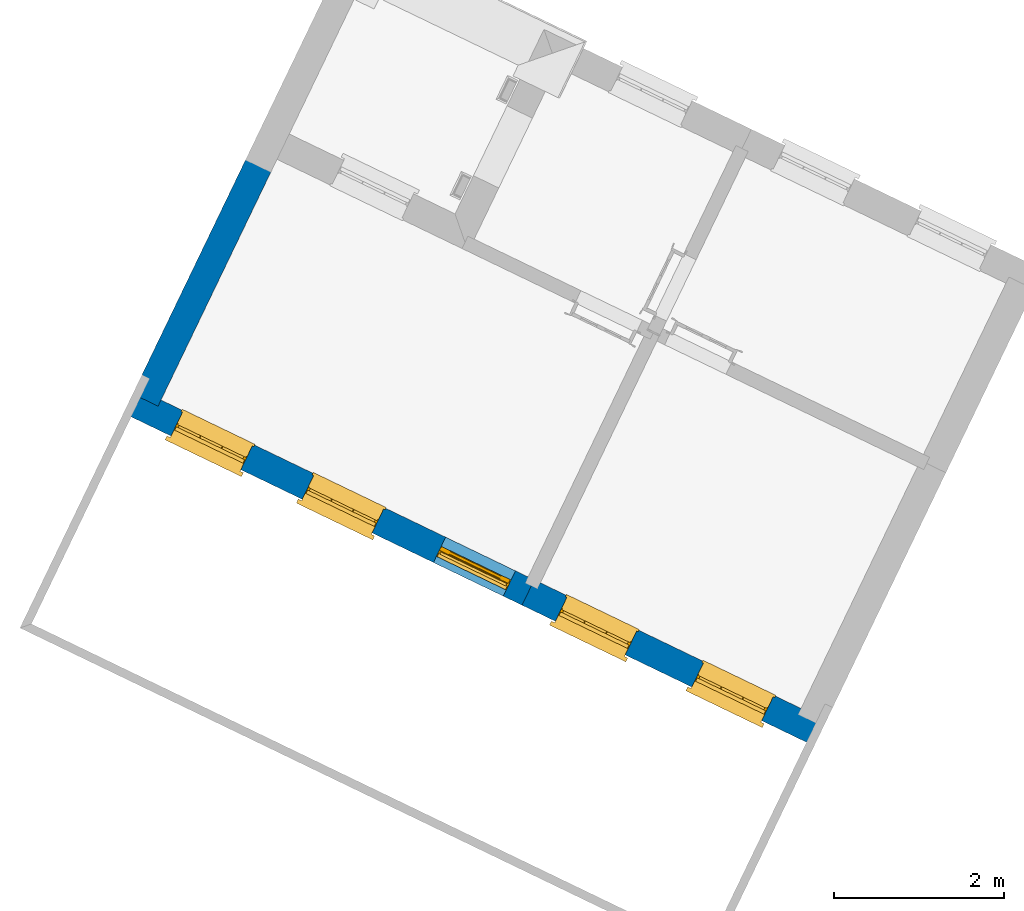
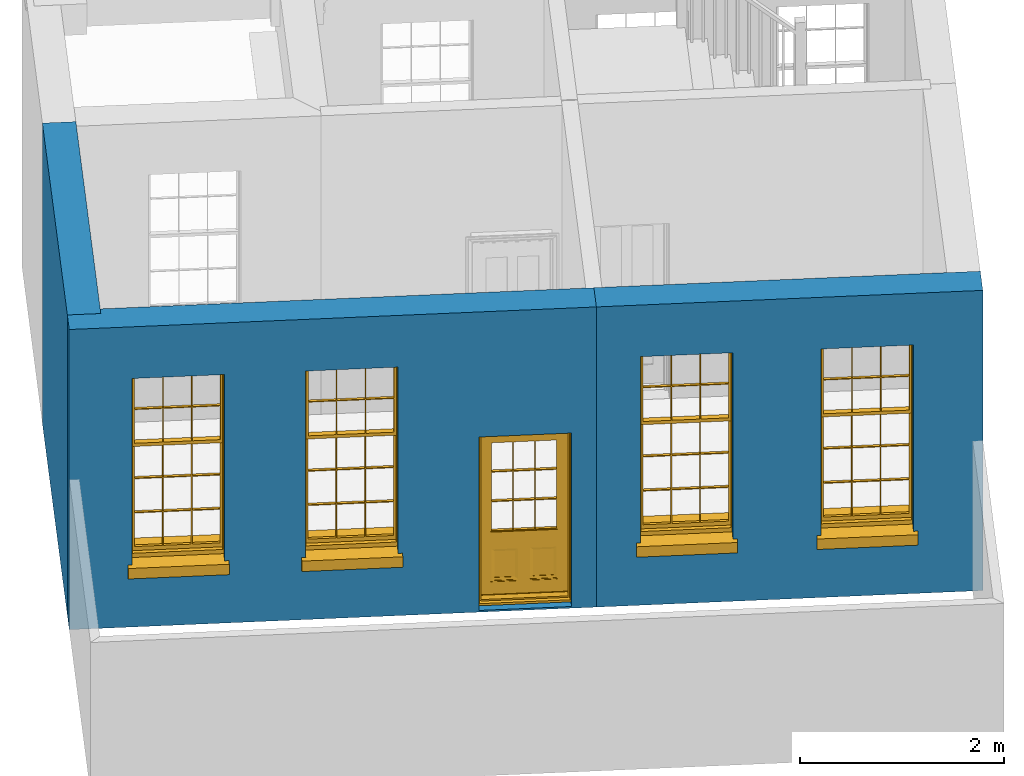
# One storey, part 2 of 6: 4 windows, 3 walls, 1 door, 5 openings.
"""IFC4 building model written with IfcOpenShell, lengths in metres."""

from ifc_helpers import new_model, si_unit, frame, origin, origin_with_axes, place, context, subcontext, project, spatial, polyline, outline, extrude, faceted_brep, source, transform, mapped, material, layer, layer_set, layer_usage, type_object, type_shapes, element, fill, save


model = new_model("IFC4")

# Units and contexts
model_context = context("Model", 3, world=origin_with_axes())
body_context = subcontext(model_context, "Body", "Model", "MODEL_VIEW")
ifc_project = project(units=[si_unit("PLANEANGLEUNIT", "RADIAN"), si_unit("MASSUNIT", "GRAM", prefix="KILO"), si_unit("FORCEUNIT", "NEWTON", prefix="KILO"), si_unit("LENGTHUNIT", "METRE"), si_unit("AREAUNIT", "SQUARE_METRE"), si_unit("VOLUMEUNIT", "CUBIC_METRE")], contexts=[model_context, model_context])

# Sites, building, storey
site_1_placement = place(None, origin_with_axes())
site_1 = spatial("IfcSite", under=ifc_project, at=site_1_placement, Name="Tamar")
site_2_placement = place(site_1_placement, origin_with_axes())
site_2 = spatial("IfcSite", under=site_1, at=site_2_placement, Name="Site plot-1", CompositionType="ELEMENT")
building_placement = place(None, origin_with_axes())
building = spatial("IfcBuilding", under=site_2, at=building_placement, Name="Building plot-1", CompositionType="ELEMENT")
storey_placement = place(None, frame((0.0, 0.0, 26.0), z_axis=(0.0, 0.0, 1.0), x_axis=(1.0, 0.0, 0.0)))
storey = spatial("IfcBuildingStorey", under=building, at=storey_placement, Name="plot-1 0", CompositionType="ELEMENT", Elevation=26.0)

# Wall, openings, windows, door
ifc_material_1 = material(Name="Masonry")
ifc_layer_1 = layer(ifc_material_1, 0.33, ventilated=False)
ifc_layer_set_1 = layer_set([ifc_layer_1], Name="exterior_0.08_0.25")
ifc_layer_usage_1 = layer_usage(ifc_layer_set_1, "AXIS2", "POSITIVE", -0.25)
wall_type_1 = type_object("IfcWallType", Name="exterior_0.08_0.25", PredefinedType="SOLIDWALL", material=ifc_layer_set_1)
wall_1_placement = place(storey_placement, frame((219.373861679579, 294.726949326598, 0.0), z_axis=(0.0, 0.0, 1.0), x_axis=(0.900856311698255, -0.434117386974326, 0.0)))
wall_1 = element("IfcWall", 1, at=wall_1_placement, inside=storey, type_object=wall_type_1, material=ifc_layer_usage_1, Name="exterior", context=body_context, shape_type="SweptSolid", body=[
    extrude(outline(polyline([(-0.250000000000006, 0.0800000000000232), (-0.249999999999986, -0.250000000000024), (4.94327122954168, -0.250000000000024), (4.94327122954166, 0.0800000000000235), (-0.250000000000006, 0.0800000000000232)])), origin_with_axes(), (0.0, 0.0, 1.0), 3.6),
])
opening_1_placement = place(wall_1_placement, frame((0.368878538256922, 0.0, 0.75)))
opening_1 = element("IfcOpeningElement", 2, at=opening_1_placement, cuts=wall_1, Name="My Opening", ObjectType="Opening", context=body_context, shape_type="SweptSolid", body=[
    extrude(outline(polyline([(0.0, -0.269999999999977), (0.910000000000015, -0.269999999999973), (0.91000000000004, 1.10000000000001), (2.43693953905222e-14, 1.1), (0.0, -0.269999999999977)])), origin_with_axes(), (0.0, 0.0, 1.0), 2.23),
])
opening_2_placement = place(wall_1_placement, frame((2.07887853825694, 0.0, 0.75)))
opening_2 = element("IfcOpeningElement", 3, at=opening_2_placement, cuts=wall_1, Name="My Opening", ObjectType="Opening", context=body_context, shape_type="SweptSolid", body=[
    extrude(outline(polyline([(0.0, -0.270000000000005), (0.90999999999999, -0.270000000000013), (0.910000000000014, 1.09999999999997), (2.39808173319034e-14, 1.09999999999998), (0.0, -0.270000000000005)])), origin_with_axes(), (0.0, 0.0, 1.0), 2.23),
])
opening_3_placement = place(wall_1_placement, frame((3.78887853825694, 0.0, 0.0199999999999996)))
opening_3 = element("IfcOpeningElement", 4, at=opening_3_placement, cuts=wall_1, Name="My Opening", ObjectType="Opening", context=body_context, shape_type="SweptSolid", body=[
    extrude(outline(polyline([(0.0, -0.269999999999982), (0.90999999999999, -0.269999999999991), (0.910000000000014, 1.09999999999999), (2.48689957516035e-14, 1.1), (0.0, -0.269999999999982)])), origin_with_axes(), (0.0, 0.0, 1.0), 2.08),
])
window_type = type_object("IfcWindowType", Name="sash_big_taller", PartitioningType="DOUBLE_PANEL_HORIZONTAL", PredefinedType="NOTDEFINED")
shared_shape_1 = source(origin(), body_context, "Body", "Brep", [
    faceted_brep([(0.033125, 0.145, 1.385209), (0.01, 0.145, 1.385209), (0.033125, 0.145, 1.786042), (0.876875, 0.145, 1.385209), (0.876875, 0.145, 1.786042), (0.9, 0.145, 1.385209), (0.876875, 0.145, 1.796042), (0.876875, 0.145, 2.196875), (0.9, 0.145, 2.22), (0.033125, 0.145, 2.196875), (0.033125, 0.145, 1.796042), (0.01, 0.145, 2.22), (0.876875, 0.115, 1.786042), (0.876875, 0.115, 1.385209), (0.9, 0.115, 1.347084), (0.033125, 0.115, 2.196875), (0.01, 0.115, 2.22), (0.033125, 0.115, 1.796042), (0.01, 0.115, 1.347084), (0.033125, 0.115, 1.385209), (0.033125, 0.115, 1.786042), (0.876875, 0.115, 2.196875), (0.876875, 0.115, 1.796042), (0.9, 0.115, 2.22), (0.033125, 0.145, 1.347084), (0.01, 0.145, 1.347084), (0.033125, 0.145, 0.94625), (0.876875, 0.145, 1.347084), (0.876875, 0.145, 0.94625), (0.9, 0.145, 1.347084), (0.876875, 0.145, 0.52625), (0.876875, 0.145, 0.125417), (0.9, 0.145, 0.077167), (0.033125, 0.145, 0.125417), (0.033125, 0.145, 0.52625), (0.01, 0.145, 0.077167), (-0.0425, 0.0, 0.01), (-0.0425, -0.05, 0.001667), (0.0, 0.0, 0.01), (0.9525, 0.0, 0.01), (0.91, 0.0, 0.01), (0.9525, -0.05, 0.001667), (-0.02, 0.33, 0.077167), (0.0, 0.33, 0.077167), (-0.02, 0.36, 0.077167), (0.0, 0.19, 0.077167), (0.01, 0.19, 0.077167), (0.91, 0.19, 0.077167), (0.91, 0.33, 0.077167), (0.9, 0.19, 0.077167), (0.93, 0.33, 0.077167), (0.93, 0.36, 0.077167), (0.01, 0.175, 1.385209), (0.9, 0.175, 1.385209), (0.876875, 0.175, 0.125417), (0.876875, 0.175, 0.52625), (0.9, 0.175, 0.077167), (0.876875, 0.175, 0.94625), (0.876875, 0.175, 1.347084), (0.033125, 0.175, 0.125417), (0.01, 0.175, 0.077167), (0.033125, 0.175, 0.52625), (0.033125, 0.175, 1.347084), (0.033125, 0.175, 0.94625), (-0.02, 0.33, 0.052167), (-0.02, 0.36, 0.052167), (0.93, 0.36, 0.052167), (0.93, 0.33, 0.052167), (0.91, 0.33, 0.052167), (0.0, 0.33, 0.052167), (0.91, 0.1, 0.026667), (0.0, 0.1, 0.026667), (-0.0425, -0.05, -0.123333), (0.9525, -0.05, -0.123333), (-0.0425, 0.0, -0.123333), (0.9525, 0.0, -0.123333), (0.01, 0.19, 2.22), (0.9, 0.19, 2.22), (0.0, 0.19, 2.23), (0.91, 0.19, 2.23), (0.01, 0.1, 0.077167), (0.9, 0.1, 0.077167), (0.592292, 0.145, 0.125417), (0.592292, 0.175, 0.125417), (0.317708, 0.175, 0.125417), (0.317708, 0.145, 0.125417), (0.592292, 0.145, 0.53625), (0.317708, 0.145, 0.53625), (0.317708, 0.145, 0.52625), (0.592292, 0.145, 0.52625), (0.592292, 0.175, 0.53625), (0.317708, 0.175, 0.53625), (0.592292, 0.115, 1.796042), (0.592292, 0.145, 1.796042), (0.317708, 0.145, 1.796042), (0.317708, 0.115, 1.796042), (0.317708, 0.115, 1.786042), (0.592292, 0.115, 1.786042), (0.317708, 0.145, 1.786042), (0.592292, 0.145, 1.786042), (0.602292, 0.115, 1.786042), (0.592292, 0.115, 1.385209), (0.602292, 0.115, 1.385209), (0.602292, 0.145, 1.385209), (0.592292, 0.145, 1.385209), (0.602292, 0.145, 1.786042), (0.876875, 0.145, 0.53625), (0.876875, 0.175, 0.53625), (0.602292, 0.175, 0.53625), (0.602292, 0.145, 0.53625), (0.317708, 0.175, 0.52625), (0.307708, 0.175, 0.125417), (0.307708, 0.175, 0.52625), (0.602292, 0.175, 0.52625), (0.602292, 0.175, 0.125417), (0.592292, 0.175, 0.52625), (0.307708, 0.175, 0.53625), (0.033125, 0.175, 0.53625), (0.317708, 0.175, 1.347084), (0.317708, 0.175, 0.94625), (0.307708, 0.175, 0.94625), (0.307708, 0.175, 1.347084), (0.602292, 0.175, 1.347084), (0.602292, 0.175, 0.94625), (0.592292, 0.175, 0.94625), (0.592292, 0.175, 1.347084), (0.307708, 0.145, 0.52625), (0.307708, 0.145, 0.125417), (0.307708, 0.145, 0.53625), (0.033125, 0.145, 0.53625), (0.307708, 0.145, 1.347084), (0.307708, 0.145, 0.94625), (0.592292, 0.145, 1.347084), (0.592292, 0.145, 0.94625), (0.317708, 0.145, 0.94625), (0.317708, 0.145, 1.347084), (0.602292, 0.145, 0.94625), (0.602292, 0.145, 1.347084), (0.602292, 0.145, 0.52625), (0.602292, 0.145, 0.125417), (0.307708, 0.115, 1.796042), (0.307708, 0.115, 1.786042), (0.307708, 0.115, 1.385209), (0.317708, 0.115, 1.385209), (0.317708, 0.115, 2.196875), (0.307708, 0.115, 2.196875), (0.602292, 0.115, 2.196875), (0.592292, 0.115, 2.196875), (0.602292, 0.115, 1.796042), (0.602292, 0.145, 1.796042), (0.307708, 0.145, 1.796042), (0.307708, 0.145, 2.196875), (0.317708, 0.145, 2.196875), (0.592292, 0.145, 2.196875), (0.602292, 0.145, 2.196875), (0.307708, 0.145, 1.786042), (0.317708, 0.145, 1.385209), (0.307708, 0.145, 1.385209), (0.876875, 0.175, 0.93625), (0.033125, 0.175, 0.93625), (0.033125, 0.145, 0.93625), (0.876875, 0.145, 0.93625), (0.91, 0.1, 2.23), (0.9, 0.1, 2.22), (0.01, 0.1, 2.22), (0.0, 0.1, 2.23), (0.91, 0.0, 0.0), (0.0, 0.0, 0.0), (0.91, 0.33, 0.0), (0.0, 0.33, 0.0), (0.317708, 0.145, 0.93625), (0.592292, 0.145, 0.93625), (0.317708, 0.175, 0.93625), (0.307708, 0.175, 0.93625), (0.602292, 0.175, 0.93625), (0.592292, 0.175, 0.93625), (0.307708, 0.145, 0.93625), (0.602292, 0.145, 0.93625)], [[[0, 1, 2]], [[3, 4, 5]], [[6, 7, 8]], [[9, 10, 11]], [[12, 13, 14]], [[15, 16, 17]], [[18, 19, 20]], [[21, 22, 23]], [[24, 25, 26]], [[27, 28, 29]], [[30, 31, 32]], [[33, 34, 35]], [[14, 27, 29]], [[25, 24, 18]], [[36, 37, 38]], [[39, 40, 41]], [[42, 43, 44]], [[45, 46, 43]], [[47, 48, 49]], [[50, 51, 48]], [[1, 0, 52]], [[5, 53, 3]], [[54, 55, 56]], [[57, 58, 53]], [[59, 60, 61]], [[62, 63, 52]], [[48, 43, 46, 49]], [[51, 44, 43, 48]], [[64, 42, 44, 65]], [[65, 44, 51, 66]], [[66, 51, 50, 67]], [[65, 66, 68, 69]], [[60, 56, 49, 46]], [[70, 71, 38, 40]], [[37, 41, 40, 38]], [[37, 72, 73, 41]], [[74, 75, 73, 72]], [[8, 11, 76, 77]], [[76, 78, 79, 77]], [[32, 35, 80, 81]], [[81, 80, 71, 70]], [[82, 83, 84, 85]], [[86, 87, 88, 89]], [[86, 90, 91, 87]], [[92, 93, 94, 95]], [[92, 95, 96, 97]], [[96, 98, 99, 97]], [[100, 97, 101, 102]], [[103, 104, 99, 105]], [[97, 99, 104, 101]], [[102, 103, 105, 100]], [[106, 107, 108, 109]], [[110, 84, 111, 112]], [[113, 114, 83, 115]], [[116, 112, 61, 117]], [[90, 115, 110, 91]], [[118, 119, 120, 121]], [[122, 123, 124, 125]], [[113, 108, 107, 55]], [[126, 112, 111, 127]], [[34, 61, 112, 126]], [[89, 115, 83, 82]], [[88, 110, 115, 89]], [[85, 84, 110, 88]], [[128, 116, 117, 129]], [[130, 121, 120, 131]], [[132, 125, 124, 133]], [[134, 119, 118, 135]], [[136, 123, 122, 137]], [[138, 113, 55, 30]], [[139, 114, 113, 138]], [[138, 30, 106, 109]], [[88, 126, 127, 85]], [[138, 89, 82, 139]], [[137, 132, 133, 136]], [[128, 129, 34, 126]], [[135, 130, 131, 134]], [[140, 17, 20, 141]], [[96, 141, 142, 143]], [[144, 145, 140, 95]], [[146, 147, 92, 148]], [[100, 12, 22, 148]], [[149, 6, 4, 105]], [[94, 150, 151, 152]], [[149, 93, 153, 154]], [[99, 98, 94, 93]], [[155, 2, 10, 150]], [[156, 157, 155, 98]], [[141, 155, 157, 142]], [[20, 2, 155, 141]], [[143, 156, 98, 96]], [[140, 150, 10, 17]], [[145, 151, 150, 140]], [[147, 153, 93, 92]], [[95, 94, 152, 144]], [[22, 6, 149, 148]], [[148, 149, 154, 146]], [[100, 105, 4, 12]], [[109, 86, 89, 138]], [[108, 113, 115, 90]], [[91, 110, 112, 116]], [[87, 128, 126, 88]], [[97, 100, 148, 92]], [[141, 96, 95, 140]], [[98, 155, 150, 94]], [[105, 99, 93, 149]], [[143, 101, 104, 156]], [[135, 118, 125, 132]], [[144, 152, 153, 147]], [[127, 111, 59, 33]], [[15, 9, 151, 145]], [[146, 154, 7, 21]], [[31, 54, 114, 139]], [[36, 74, 72, 37]], [[39, 41, 73, 75]], [[18, 14, 101, 143]], [[23, 16, 144, 147]], [[83, 56, 60, 84]], [[52, 53, 125, 118]], [[53, 52, 156, 104]], [[11, 8, 153, 152]], [[14, 18, 135, 132]], [[2, 1, 11, 10]], [[8, 5, 4, 6]], [[57, 53, 56, 158]], [[60, 52, 63, 159]], [[26, 25, 35, 160]], [[32, 29, 28, 161]], [[14, 23, 22, 12]], [[18, 20, 17, 16]], [[19, 0, 2, 20]], [[17, 10, 9, 15]], [[12, 4, 3, 13]], [[21, 7, 6, 22]], [[27, 58, 57, 28]], [[30, 55, 54, 31]], [[33, 59, 61, 34]], [[26, 63, 62, 24]], [[5, 8, 77, 53]], [[76, 11, 1, 52]], [[46, 45, 78, 76]], [[49, 77, 79, 47]], [[70, 162, 163, 81]], [[71, 80, 164, 165]], [[19, 142, 157, 0]], [[102, 13, 3, 103]], [[121, 130, 24, 62]], [[29, 32, 81, 14]], [[80, 35, 25, 18]], [[60, 46, 76, 52]], [[77, 49, 56, 53]], [[23, 14, 81, 163]], [[16, 164, 80, 18]], [[35, 85, 127]], [[127, 33, 35]], [[139, 82, 32]], [[32, 31, 139]], [[32, 82, 85, 35]], [[102, 101, 14]], [[14, 13, 102]], [[18, 143, 142]], [[142, 19, 18]], [[146, 21, 23]], [[23, 147, 146]], [[16, 15, 145]], [[145, 144, 16]], [[11, 152, 151]], [[151, 9, 11]], [[154, 153, 8]], [[8, 7, 154]], [[23, 163, 164, 16]], [[162, 165, 164, 163]], [[52, 118, 121]], [[121, 62, 52]], [[125, 53, 122]], [[58, 122, 53]], [[27, 137, 122, 58]], [[56, 83, 114]], [[114, 54, 56]], [[111, 84, 60]], [[60, 59, 111]], [[137, 27, 14]], [[14, 132, 137]], [[130, 135, 18]], [[18, 24, 130]], [[157, 156, 52]], [[52, 0, 157]], [[103, 3, 53]], [[53, 104, 103]], [[79, 78, 165, 162]], [[78, 45, 71, 165]], [[162, 70, 47, 79]], [[166, 75, 74, 167]], [[68, 66, 67]], [[48, 68, 67, 50]], [[69, 64, 65]], [[42, 64, 69, 43]], [[69, 68, 168, 169]], [[70, 68, 48, 47]], [[166, 168, 68, 70]], [[43, 69, 71, 45]], [[69, 169, 167, 71]], [[168, 166, 167, 169]], [[38, 167, 74, 36]], [[71, 167, 38]], [[39, 75, 166, 40]], [[40, 166, 70]], [[133, 134, 170, 171]], [[133, 124, 119, 134]], [[28, 57, 123, 136]], [[172, 91, 116, 173]], [[174, 108, 90, 175]], [[120, 173, 159, 63]], [[124, 175, 172, 119]], [[174, 123, 57, 158]], [[176, 173, 116, 128]], [[160, 159, 173, 176]], [[171, 175, 90, 86]], [[170, 172, 175, 171]], [[87, 91, 172, 170]], [[131, 120, 63, 26]], [[177, 174, 158, 161]], [[109, 108, 174, 177]], [[177, 161, 28, 136]], [[170, 176, 128, 87]], [[177, 171, 86, 109]], [[131, 26, 160, 176]], [[136, 133, 171, 177]], [[123, 174, 175, 124]], [[119, 172, 173, 120]], [[134, 131, 176, 170]], [[129, 117, 159, 160]], [[161, 158, 107, 106]], [[35, 34, 129]], [[35, 129, 160]], [[32, 106, 30]], [[32, 161, 106]], [[56, 55, 107]], [[56, 107, 158]], [[60, 117, 61]], [[60, 159, 117]]]),
])
type_shapes(window_type, [shared_shape_1])
window_1_placement = place(storey_placement, frame((219.588956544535, 294.3235815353, 0.75), z_axis=(0.0, 0.0, 1.0), x_axis=(0.819779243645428, -0.395046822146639, 0.0)))
window_1 = element("IfcWindow", 5, at=window_1_placement, inside=storey, type_object=window_type, Name="bedroom outside window", OverallHeight=2.23, OverallWidth=0.91, context=body_context, shape_type="MappedRepresentation", body=[
    mapped(shared_shape_1, transform((0.0, 0.0, 0.0), scale=1.0)),
])
fill(opening_1, window_1)
window_2_placement = place(storey_placement, frame((221.129420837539, 293.581240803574, 0.75), z_axis=(0.0, 0.0, 1.0), x_axis=(0.819779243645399, -0.395046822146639, 0.0)))
window_2 = element("IfcWindow", 6, at=window_2_placement, inside=storey, type_object=window_type, Name="bedroom outside window", OverallHeight=2.23, OverallWidth=0.91, context=body_context, shape_type="MappedRepresentation", body=[
    mapped(shared_shape_1, transform((0.0, 0.0, 0.0), scale=1.0)),
])
fill(opening_2, window_2)
door_type = type_object("IfcDoorType", Name="door_panelled", OperationType="SINGLE_SWING_LEFT", PredefinedType="NOTDEFINED")
shared_shape_2 = source(origin(), body_context, "Body", "Brep", [
    faceted_brep([(0.545, 0.195, 0.265), (0.745, 0.195, 0.265), (0.745, 0.2, 0.265), (0.545, 0.2, 0.265), (0.745, 0.2, 0.58), (0.545, 0.2, 0.58), (0.545, 0.195, 0.58), (0.515, 0.19, 0.235), (0.775, 0.19, 0.235), (0.745, 0.195, 0.58), (0.515, 0.19, 0.61), (0.515, 0.185, 0.235), (0.775, 0.185, 0.235), (0.775, 0.19, 0.61), (0.515, 0.185, 0.61), (0.785, 0.185, 0.225), (0.505, 0.185, 0.225), (0.775, 0.185, 0.61), (0.505, 0.185, 0.62), (0.785, 0.185, 0.62), (0.505, 0.18, 0.225), (0.785, 0.18, 0.225), (0.505, 0.18, 0.62), (0.785, 0.18, 0.62), (0.883, 0.18, 0.075), (0.898, 0.18, 0.075), (0.405, 0.18, 0.62), (0.405, 0.18, 0.225), (0.027, 0.18, 0.075), (0.785, 0.18, 0.82), (0.125, 0.18, 0.82), (0.405, 0.185, 0.62), (0.405, 0.185, 0.225), (0.898, 0.18, 2.068), (0.027, 0.17, 0.075), (0.883, 0.17, 0.075), (0.125, 0.18, 0.225), (0.012, 0.18, 0.075), (0.785, 0.19, 0.82), (0.125, 0.19, 0.82), (0.125, 0.18, 0.62), (0.125, 0.185, 0.62), (0.395, 0.185, 0.61), (0.395, 0.185, 0.235), (0.125, 0.185, 0.225), (0.785, 0.18, 1.895), (0.027, 0.14, 0.045), (0.883, 0.14, 0.045), (0.558333, 0.19, 0.83), (0.351667, 0.19, 0.83), (0.125, 0.18, 1.895), (0.125, 0.19, 1.895), (0.785, 0.19, 1.895), (0.012, 0.18, 2.068), (0.135, 0.185, 0.61), (0.395, 0.19, 0.61), (0.395, 0.19, 0.235), (0.135, 0.185, 0.235), (0.027, 0.14, 0.027), (0.883, 0.14, 0.027), (0.568333, 0.19, 0.83), (0.558333, 0.22, 0.83), (0.351667, 0.22, 0.83), (0.341667, 0.19, 0.83), (0.135, 0.19, 1.185), (0.135, 0.19, 1.53), (0.775, 0.19, 1.53), (0.775, 0.19, 1.185), (0.135, 0.19, 0.61), (0.365, 0.195, 0.58), (0.365, 0.195, 0.265), (0.135, 0.19, 0.235), (0.568333, 0.19, 1.175), (0.558333, 0.19, 1.175), (0.775, 0.19, 0.83), (0.558333, 0.22, 1.175), (0.785, 0.22, 0.82), (0.125, 0.22, 0.82), (0.351667, 0.22, 1.175), (0.351667, 0.19, 1.175), (0.341667, 0.19, 1.175), (0.135, 0.19, 0.83), (0.135, 0.19, 1.175), (0.135, 0.22, 1.185), (0.135, 0.22, 1.53), (0.135, 0.19, 1.54), (0.351667, 0.19, 1.885), (0.558333, 0.19, 1.885), (0.775, 0.22, 1.53), (0.775, 0.22, 1.185), (0.775, 0.19, 1.175), (0.775, 0.19, 1.54), (0.165, 0.195, 0.58), (0.365, 0.2, 0.58), (0.365, 0.2, 0.265), (0.165, 0.195, 0.265), (0.568333, 0.22, 0.83), (0.568333, 0.22, 1.175), (0.568333, 0.19, 1.185), (0.558333, 0.19, 1.185), (0.775, 0.22, 0.83), (0.785, 0.23, 0.82), (0.125, 0.23, 0.82), (0.341667, 0.22, 0.83), (0.341667, 0.22, 1.175), (0.351667, 0.19, 1.185), (0.341667, 0.19, 1.185), (0.135, 0.22, 0.83), (0.341667, 0.22, 1.185), (0.125, 0.22, 1.895), (0.341667, 0.22, 1.53), (0.341667, 0.19, 1.53), (0.135, 0.19, 1.885), (0.341667, 0.19, 1.54), (0.341667, 0.19, 1.885), (0.558333, 0.22, 1.885), (0.351667, 0.22, 1.885), (0.568333, 0.19, 1.885), (0.785, 0.22, 1.895), (0.568333, 0.22, 1.185), (0.568333, 0.19, 1.53), (0.568333, 0.22, 1.53), (0.568333, 0.19, 1.54), (0.775, 0.19, 1.885), (0.165, 0.2, 0.58), (0.165, 0.2, 0.265), (0.775, 0.22, 1.175), (0.558333, 0.19, 1.53), (0.351667, 0.22, 1.185), (0.558333, 0.22, 1.185), (0.505, 0.23, 0.62), (0.405, 0.23, 0.62), (0.125, 0.23, 1.895), (0.785, 0.23, 1.895), (0.351667, 0.19, 1.53), (0.135, 0.22, 1.175), (0.135, 0.22, 1.54), (0.341667, 0.22, 1.54), (0.135, 0.22, 1.885), (0.351667, 0.19, 1.54), (0.558333, 0.22, 1.54), (0.558333, 0.19, 1.54), (0.351667, 0.22, 1.54), (0.775, 0.22, 1.54), (0.568333, 0.22, 1.54), (0.775, 0.22, 1.885), (0.558333, 0.22, 1.53), (0.405, 0.23, 0.225), (0.505, 0.23, 0.225), (0.125, 0.23, 0.62), (0.785, 0.23, 0.62), (0.012, 0.23, 2.068), (0.898, 0.23, 2.068), (0.351667, 0.22, 1.53), (0.341667, 0.22, 1.885), (0.568333, 0.22, 1.885), (0.405, 0.225, 0.225), (0.405, 0.225, 0.62), (0.505, 0.225, 0.62), (0.505, 0.225, 0.225), (0.898, 0.23, 0.027), (0.012, 0.23, 0.027), (0.125, 0.225, 0.62), (0.785, 0.225, 0.62), (0.395, 0.225, 0.235), (0.395, 0.225, 0.61), (0.125, 0.23, 0.225), (0.125, 0.225, 0.225), (0.515, 0.225, 0.61), (0.515, 0.225, 0.235), (0.785, 0.23, 0.225), (0.785, 0.225, 0.225), (0.135, 0.225, 0.61), (0.775, 0.225, 0.61), (0.135, 0.225, 0.235), (0.395, 0.22, 0.235), (0.395, 0.22, 0.61), (0.515, 0.22, 0.61), (0.515, 0.22, 0.235), (0.775, 0.225, 0.235), (0.135, 0.22, 0.61), (0.775, 0.22, 0.61), (0.135, 0.22, 0.235), (0.365, 0.215, 0.265), (0.365, 0.215, 0.58), (0.545, 0.215, 0.58), (0.545, 0.215, 0.265), (0.775, 0.22, 0.235), (0.165, 0.215, 0.58), (0.745, 0.215, 0.58), (0.165, 0.215, 0.265), (0.365, 0.21, 0.58), (0.365, 0.21, 0.265), (0.545, 0.21, 0.58), (0.545, 0.21, 0.265), (0.745, 0.215, 0.265), (0.165, 0.21, 0.58), (0.745, 0.21, 0.58), (0.165, 0.21, 0.265), (0.745, 0.21, 0.265), (0.885, 0.178, 0.025), (0.025, 0.178, 0.025), (0.025, 0.15, 0.025), (0.885, 0.15, 0.025), (0.9, 0.23, 0.025), (0.01, 0.23, 0.025), (0.9, 0.178, 0.025), (0.91, 0.23, 0.0), (0.0, 0.23, 0.0), (0.01, 0.178, 0.025), (0.9, 0.178, 2.07), (0.9, 0.23, 2.07), (0.885, 0.178, 2.055), (0.91, 0.23, 2.08), (0.01, 0.23, 2.07), (0.0, 0.23, 2.08), (0.01, 0.178, 2.07), (0.025, 0.178, 2.055), (0.0, 0.1, 2.08), (0.91, 0.1, 2.08), (0.01, 0.1, 2.07), (0.9, 0.1, 2.07), (0.01, 0.15, 2.07), (0.9, 0.15, 2.07), (0.0, 0.1, 0.0), (0.91, 0.1, 0.0), (0.01, 0.1, 0.025), (0.9, 0.1, 0.025), (0.01, 0.15, 0.025), (0.025, 0.15, 2.055), (0.9, 0.15, 0.025), (0.885, 0.15, 2.055), (0.898, 0.18, 0.027), (0.012, 0.18, 0.027), (0.883, 0.18, 0.027), (0.027, 0.18, 0.027)], [[[0, 1, 2, 3]], [[2, 4, 5, 3]], [[0, 3, 5, 6]], [[1, 0, 7, 8]], [[9, 4, 2, 1]], [[9, 6, 5, 4]], [[0, 6, 10, 7]], [[8, 7, 11, 12]], [[8, 13, 9, 1]], [[13, 10, 6, 9]], [[7, 10, 14, 11]], [[15, 12, 11, 16]], [[12, 17, 13, 8]], [[17, 14, 10, 13]], [[18, 16, 11, 14]], [[15, 19, 17, 12]], [[15, 16, 20, 21]], [[14, 17, 19, 18]], [[16, 18, 22, 20]], [[21, 23, 19, 15]], [[24, 25, 21, 20]], [[23, 22, 18, 19]], [[20, 22, 26, 27]], [[23, 21, 25]], [[28, 24, 20, 27]], [[22, 23, 29]], [[29, 30, 26, 22]], [[27, 26, 31, 32]], [[23, 25, 33, 29]], [[34, 35, 24, 28]], [[28, 27, 36, 37]], [[38, 39, 30, 29]], [[26, 30, 40]], [[26, 40, 41, 31]], [[42, 43, 32, 31]], [[32, 44, 36, 27]], [[33, 45, 29]], [[46, 47, 35, 34]], [[36, 40, 37]], [[39, 38, 48, 49]], [[50, 30, 39, 51]], [[29, 45, 52, 38]], [[53, 37, 40, 30]], [[44, 41, 40, 36]], [[31, 41, 54, 42]], [[43, 42, 55, 56]], [[57, 44, 32, 43]], [[50, 45, 33, 53]], [[47, 46, 58, 59]], [[60, 48, 38]], [[49, 48, 61, 62]], [[49, 63, 39]], [[50, 53, 30]], [[51, 39, 64, 65]], [[45, 50, 51, 52]], [[66, 67, 38, 52]], [[57, 54, 41, 44]], [[42, 54, 68, 55]], [[56, 55, 69, 70]], [[56, 71, 57, 43]], [[60, 72, 73, 48]], [[60, 38, 74]], [[48, 73, 75, 61]], [[76, 77, 62, 61]], [[62, 78, 79, 49]], [[49, 79, 80, 63]], [[63, 81, 39]], [[82, 64, 39]], [[65, 64, 83, 84]], [[85, 51, 65]], [[52, 51, 86, 87]], [[88, 89, 67, 66]], [[90, 38, 67]], [[91, 66, 52]], [[71, 68, 54, 57]], [[55, 68, 92, 69]], [[69, 93, 94, 70]], [[70, 95, 71, 56]], [[96, 97, 72, 60]], [[73, 72, 98, 99]], [[74, 38, 90]], [[100, 96, 60, 74]], [[75, 73, 79, 78]], [[61, 75, 97, 96]], [[101, 102, 77, 76]], [[77, 103, 62]], [[96, 76, 61]], [[103, 104, 78, 62]], [[80, 79, 105, 106]], [[63, 80, 104, 103]], [[81, 63, 103, 107]], [[81, 82, 39]], [[106, 64, 82, 80]], [[106, 108, 83, 64]], [[84, 83, 77, 109]], [[110, 111, 65, 84]], [[112, 51, 85]], [[113, 85, 65, 111]], [[114, 86, 51]], [[115, 87, 86, 116]], [[117, 52, 87]], [[118, 76, 89, 88]], [[119, 98, 67, 89]], [[120, 121, 88, 66]], [[67, 98, 72, 90]], [[91, 122, 120, 66]], [[91, 52, 123]], [[95, 92, 68, 71]], [[69, 92, 124, 93]], [[94, 93, 124, 125]], [[94, 125, 95, 70]], [[72, 97, 126, 90]], [[127, 99, 98, 120]], [[99, 105, 79, 73]], [[74, 90, 126, 100]], [[96, 100, 76]], [[128, 129, 75, 78]], [[97, 75, 129, 119]], [[130, 131, 102, 101]], [[109, 77, 102, 132]], [[133, 101, 76, 118]], [[77, 107, 103]], [[78, 104, 108, 128]], [[111, 106, 105, 134]], [[104, 80, 82, 135]], [[107, 135, 82, 81]], [[110, 108, 106, 111]], [[104, 135, 83, 108]], [[83, 135, 77]], [[136, 84, 109]], [[110, 84, 136, 137]], [[114, 51, 112]], [[85, 136, 138, 112]], [[113, 137, 136, 85]], [[111, 134, 139, 113]], [[86, 114, 113, 139]], [[140, 141, 87, 115]], [[139, 142, 116, 86]], [[109, 118, 115, 116]], [[117, 123, 52]], [[117, 87, 141, 122]], [[126, 89, 76]], [[143, 118, 88]], [[120, 98, 119, 121]], [[119, 89, 126, 97]], [[144, 143, 88, 121]], [[144, 122, 91, 143]], [[127, 120, 122, 141]], [[143, 91, 123, 145]], [[124, 92, 95, 125]], [[146, 129, 99, 127]], [[99, 129, 128, 105]], [[100, 126, 76]], [[121, 119, 129, 146]], [[147, 131, 130, 148]], [[131, 149, 102]], [[130, 101, 150]], [[102, 151, 132]], [[118, 109, 132, 133]], [[101, 133, 152]], [[107, 77, 135]], [[153, 128, 108, 110]], [[134, 105, 128, 153]], [[109, 138, 136]], [[153, 110, 137, 142]], [[154, 114, 112, 138]], [[137, 113, 114, 154]], [[141, 139, 134, 127]], [[141, 140, 142, 139]], [[144, 140, 115, 155]], [[142, 137, 154, 116]], [[155, 115, 118]], [[116, 154, 109]], [[117, 155, 145, 123]], [[122, 144, 155, 117]], [[143, 145, 118]], [[121, 146, 140, 144]], [[146, 127, 134, 153]], [[156, 157, 131, 147]], [[148, 130, 158, 159]], [[148, 160, 161, 147]], [[157, 162, 149, 131]], [[161, 151, 102, 149]], [[101, 152, 160, 150]], [[163, 158, 130, 150]], [[151, 152, 133, 132]], [[154, 138, 109]], [[142, 140, 146, 153]], [[145, 155, 118]], [[157, 156, 164, 165]], [[147, 166, 167, 156]], [[168, 169, 159, 158]], [[170, 148, 159, 171]], [[148, 170, 160]], [[166, 147, 161]], [[172, 162, 157, 165]], [[166, 149, 162, 167]], [[166, 161, 149]], [[150, 160, 170]], [[163, 173, 168, 158]], [[171, 163, 150, 170]], [[174, 164, 156, 167]], [[175, 176, 165, 164]], [[169, 168, 177, 178]], [[171, 159, 169, 179]], [[167, 162, 172, 174]], [[176, 180, 172, 165]], [[179, 173, 163, 171]], [[181, 177, 168, 173]], [[164, 174, 182, 175]], [[183, 184, 176, 175]], [[178, 177, 185, 186]], [[179, 169, 178, 187]], [[174, 172, 180, 182]], [[184, 188, 180, 176]], [[187, 181, 173, 179]], [[189, 185, 177, 181]], [[175, 182, 190, 183]], [[191, 184, 183, 192]], [[185, 193, 194, 186]], [[187, 178, 186, 195]], [[182, 180, 188, 190]], [[191, 196, 188, 184]], [[195, 189, 181, 187]], [[197, 193, 185, 189]], [[183, 190, 198, 192]], [[198, 196, 191, 192]], [[194, 193, 197, 199]], [[195, 186, 194, 199]], [[188, 196, 198, 190]], [[197, 189, 195, 199]], [[200, 201, 202, 203]], [[201, 200, 204, 205]], [[206, 204, 200]], [[204, 207, 208, 205]], [[209, 201, 205]], [[210, 211, 204, 206]], [[206, 200, 212, 210]], [[211, 213, 207, 204]], [[214, 205, 208, 215]], [[216, 217, 201, 209]], [[205, 214, 216, 209]], [[216, 214, 211, 210]], [[210, 212, 217, 216]], [[214, 215, 213, 211]], [[218, 219, 213, 215]], [[219, 218, 220, 221]], [[221, 220, 222, 223]], [[215, 208, 224, 218]], [[225, 224, 208, 207]], [[224, 226, 220, 218]], [[224, 225, 227, 226]], [[219, 225, 207, 213]], [[228, 222, 220, 226]], [[219, 221, 227, 225]], [[226, 227, 203, 202]], [[202, 229, 222, 228]], [[228, 226, 202]], [[227, 221, 223, 230]], [[230, 203, 227]], [[217, 229, 202, 201]], [[231, 223, 222, 229]], [[230, 223, 231, 203]], [[231, 229, 217, 212]], [[212, 200, 203, 231]], [[33, 152, 151, 53]], [[25, 160, 152, 33]], [[161, 37, 53, 151]], [[232, 160, 25]], [[161, 233, 37]], [[160, 232, 234]], [[24, 234, 232, 25]], [[233, 161, 235]], [[37, 233, 235, 28]], [[161, 160, 234, 235]], [[35, 47, 234, 24]], [[28, 235, 46, 34]], [[58, 235, 234, 59]], [[59, 234, 47]], [[58, 46, 235]]]),
])
type_shapes(door_type, [shared_shape_2])
door_placement = place(storey_placement, frame((222.669885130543, 292.838900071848, 0.0199999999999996), z_axis=(0.0, 0.0, 1.0), x_axis=(0.819779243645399, -0.395046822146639, 0.0)))
door = element("IfcDoor", 7, at=door_placement, inside=storey, type_object=door_type, Name="bedroom outside door", OverallHeight=2.08, OverallWidth=0.91, context=body_context, shape_type="MappedRepresentation", body=[
    mapped(shared_shape_2, transform((0.0, 0.0, 0.0), scale=1.0)),
])
fill(opening_3, door)

# Wall, openings, windows
wall_2_placement = place(storey_placement, frame((223.827038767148, 292.580989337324, 0.0), z_axis=(0.0, 0.0, 1.0), x_axis=(0.900856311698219, -0.434117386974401, 0.0)))
wall_2 = element("IfcWall", 8, at=wall_2_placement, inside=storey, type_object=wall_type_1, material=ifc_layer_usage_1, Name="exterior", context=body_context, shape_type="SweptSolid", body=[
    extrude(outline(polyline([(-1.45257003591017e-14, 0.0800000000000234), (3.34828110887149e-14, -0.250000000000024), (3.80672877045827, -0.249999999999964), (3.80672877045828, 0.0800000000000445), (-1.45257003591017e-14, 0.0800000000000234)])), origin_with_axes(), (0.0, 0.0, 1.0), 3.6),
])
opening_4_placement = place(wall_2_placement, frame((0.434182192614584, 0.0, 0.75)))
opening_4 = element("IfcOpeningElement", 9, at=opening_4_placement, cuts=wall_2, Name="My Opening", ObjectType="Opening", context=body_context, shape_type="SweptSolid", body=[
    extrude(outline(polyline([(0.0, -0.269999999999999), (0.909999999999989, -0.269999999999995), (0.910000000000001, 1.09999999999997), (1.16018306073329e-14, 1.09999999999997), (0.0, -0.269999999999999)])), origin_with_axes(), (0.0, 0.0, 1.0), 2.23),
])
opening_5_placement = place(wall_2_placement, frame((2.21254657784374, 0.0, 0.75)))
opening_5 = element("IfcOpeningElement", 10, at=opening_5_placement, cuts=wall_2, Name="My Opening", ObjectType="Opening", context=body_context, shape_type="SweptSolid", body=[
    extrude(outline(polyline([(0.0, -0.269999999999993), (0.909999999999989, -0.269999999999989), (0.910000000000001, 1.09999999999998), (1.11022302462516e-14, 1.09999999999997), (0.0, -0.269999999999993)])), origin_with_axes(), (0.0, 0.0, 1.0), 2.23),
])
window_3_placement = place(storey_placement, frame((224.100962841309, 292.149272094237, 0.75), z_axis=(0.0, 0.0, 1.0), x_axis=(0.819779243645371, -0.395046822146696, 0.0)))
window_3 = element("IfcWindow", 11, at=window_3_placement, inside=storey, type_object=window_type, Name="toilet outside window", OverallHeight=2.23, OverallWidth=0.91, context=body_context, shape_type="MappedRepresentation", body=[
    mapped(shared_shape_1, transform((0.0, 0.0, 0.0), scale=1.0)),
])
fill(opening_4, window_3)
window_4_placement = place(storey_placement, frame((225.703013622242, 291.377253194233, 0.75), z_axis=(0.0, 0.0, 1.0), x_axis=(0.819779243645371, -0.395046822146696, 0.0)))
window_4 = element("IfcWindow", 12, at=window_4_placement, inside=storey, type_object=window_type, Name="toilet outside window", OverallHeight=2.23, OverallWidth=0.91, context=body_context, shape_type="MappedRepresentation", body=[
    mapped(shared_shape_1, transform((0.0, 0.0, 0.0), scale=1.0)),
])
fill(opening_5, window_4)

# Wall
ifc_material_2 = material(Name="Masonry")
ifc_layer_2 = layer(ifc_material_2, 0.33, ventilated=False)
ifc_layer_set_2 = layer_set([ifc_layer_2], Name="party_0.08_0.25")
ifc_layer_usage_2 = layer_usage(ifc_layer_set_2, "AXIS2", "POSITIVE", -0.25)
wall_type_2 = type_object("IfcWallType", Name="party_0.08_0.25", PredefinedType="SOLIDWALL", material=ifc_layer_set_2)
wall_3_placement = place(storey_placement, frame((220.804886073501, 297.696531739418, 0.0), z_axis=(0.0, 0.0, 1.0), x_axis=(-0.434117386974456, -0.900856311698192, 0.0)))
element("IfcWall", 13, at=wall_3_placement, inside=storey, type_object=wall_type_2, material=ifc_layer_usage_2, Name="party", context=body_context, shape_type="SweptSolid", body=[
    extrude(outline(polyline([(1.84594153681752e-14, 0.0800000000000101), (-1.46396358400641e-14, -0.250000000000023), (3.29639963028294, -0.250000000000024), (3.29639963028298, 0.0800000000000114), (1.84594153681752e-14, 0.0800000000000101)])), origin_with_axes(), (0.0, 0.0, 1.0), 3.6),
])

save(model, "model.ifc")
